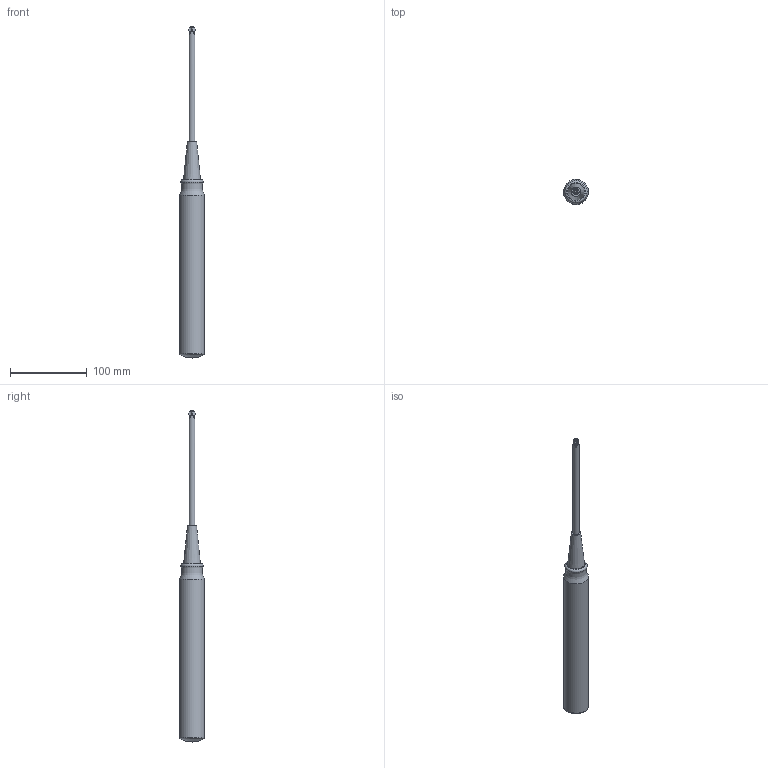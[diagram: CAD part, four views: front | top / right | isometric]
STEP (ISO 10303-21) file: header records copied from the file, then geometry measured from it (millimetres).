
FILE_DESCRIPTION(/* description */ (''),/* implementation_level */ '2;1');
FILE_NAME(/* name */ 'C:\Users\unitec\Documents\Inventor\HP\工具\\X2\30D730E930B930C930E930A430D0\X0\\phillips_screwdriver_no3.stp',/* time_stamp */ '2018-02-21T16:45:38+09:00',/* author */ ('unitec'),/* organization */ (''),/* preprocessor_version */ 'ST-DEVELOPER v15.2',/* originating_system */ 'Autodesk Inventor 2014',/* authorisation */ '');
FILE_SCHEMA (('AUTOMOTIVE_DESIGN { 1 0 10303 214 3 1 1 }'));
Length unit declared in the file: millimetre
Products named in the file (3): no3; no3-2; phillips_screwdriver_no3
Bounding box: 32.5 x 32.5 x 432 mm (x, y, z)
Volume: 205245.9 mm3; surface area: 30687.6 mm2
Topology: 2 solids, 2 shells, 48 faces, 117 edges, 72 vertices
Faces by surface type: cone 22, plane 19, cylinder 3, torus 2, bspline 2
Full cylindrical faces by diameter (mm): 8 x1, 16 x1, 32.5 x1
Entity records: 1530 total; most frequent: CARTESIAN_POINT 458, ORIENTED_EDGE 214, DIRECTION 208, EDGE_CURVE 107, AXIS2_PLACEMENT_3D 90, VERTEX_POINT 70, EDGE_LOOP 55, ADVANCED_FACE 48
